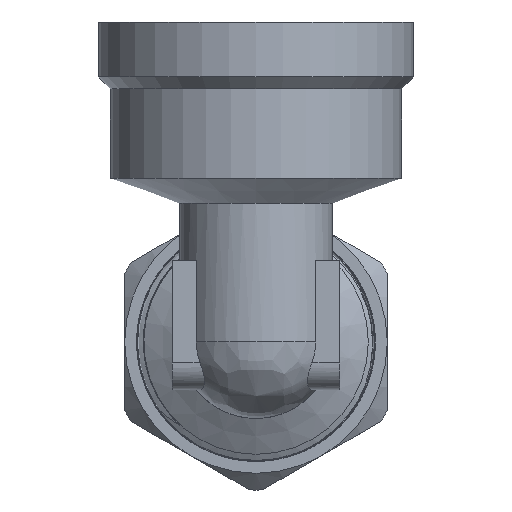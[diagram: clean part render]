
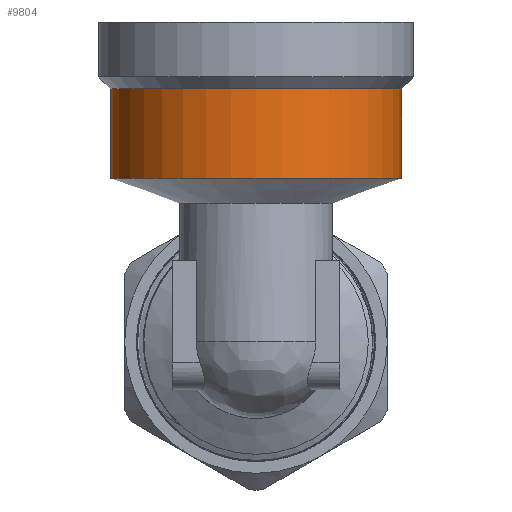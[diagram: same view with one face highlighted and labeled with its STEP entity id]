
A CAD part, front view. The second image highlights one B-rep face of the part: STEP entity #9804.
In plain terms, the highlighted cylindrical face has radius 15.25 mm (diameter 30.5 mm), a full revolution.
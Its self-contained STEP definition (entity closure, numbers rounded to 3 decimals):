
#1234=CYLINDRICAL_SURFACE('',#10478,15.25);
#1331=FACE_OUTER_BOUND('',#1903,.T.);
#1903=EDGE_LOOP('',(#6671,#6672,#6673,#6674,#6675,#6676));
#2532=LINE('',#12920,#3162);
#3162=VECTOR('',#11099,15.25);
#3798=CIRCLE('',#10479,15.25);
#3799=CIRCLE('',#10480,15.25);
#3800=CIRCLE('',#10481,15.25);
#3801=CIRCLE('',#10482,15.25);
#4061=VERTEX_POINT('',#12915);
#4062=VERTEX_POINT('',#12916);
#4063=VERTEX_POINT('',#12919);
#4064=VERTEX_POINT('',#12921);
#5109=EDGE_CURVE('',#4061,#4062,#3798,.T.);
#5110=EDGE_CURVE('',#4062,#4061,#3799,.T.);
#5111=EDGE_CURVE('',#4062,#4063,#2532,.T.);
#5112=EDGE_CURVE('',#4063,#4064,#3800,.T.);
#5113=EDGE_CURVE('',#4064,#4063,#3801,.T.);
#6671=ORIENTED_EDGE('',*,*,#5109,.F.);
#6672=ORIENTED_EDGE('',*,*,#5110,.F.);
#6673=ORIENTED_EDGE('',*,*,#5111,.T.);
#6674=ORIENTED_EDGE('',*,*,#5112,.T.);
#6675=ORIENTED_EDGE('',*,*,#5113,.T.);
#6676=ORIENTED_EDGE('',*,*,#5111,.F.);
#9804=ADVANCED_FACE('',(#1331),#1234,.T.);
#10478=AXIS2_PLACEMENT_3D('',#12914,#11093,#11094);
#10479=AXIS2_PLACEMENT_3D('',#12917,#11095,#11096);
#10480=AXIS2_PLACEMENT_3D('',#12918,#11097,#11098);
#10481=AXIS2_PLACEMENT_3D('',#12922,#11100,#11101);
#10482=AXIS2_PLACEMENT_3D('',#12923,#11102,#11103);
#11093=DIRECTION('center_axis',(0.,0.,-1.));
#11094=DIRECTION('ref_axis',(0.,-1.,0.));
#11095=DIRECTION('center_axis',(0.,0.,-1.));
#11096=DIRECTION('ref_axis',(1.,0.,0.));
#11097=DIRECTION('center_axis',(0.,0.,-1.));
#11098=DIRECTION('ref_axis',(1.,0.,0.));
#11099=DIRECTION('',(0.,0.,1.));
#11100=DIRECTION('center_axis',(0.,0.,-1.));
#11101=DIRECTION('ref_axis',(1.,0.,0.));
#11102=DIRECTION('center_axis',(0.,0.,-1.));
#11103=DIRECTION('ref_axis',(1.,0.,0.));
#12914=CARTESIAN_POINT('Origin',(0.,-31.5,21.819));
#12915=CARTESIAN_POINT('',(0.,-46.75,17.139));
#12916=CARTESIAN_POINT('',(0.,-16.25,17.139));
#12917=CARTESIAN_POINT('Origin',(0.,-31.5,17.139));
#12918=CARTESIAN_POINT('Origin',(0.,-31.5,17.139));
#12919=CARTESIAN_POINT('',(0.,-16.25,26.5));
#12920=CARTESIAN_POINT('',(0.,-16.25,21.819));
#12921=CARTESIAN_POINT('',(0.,-46.75,26.5));
#12922=CARTESIAN_POINT('Origin',(0.,-31.5,26.5));
#12923=CARTESIAN_POINT('Origin',(0.,-31.5,26.5));
